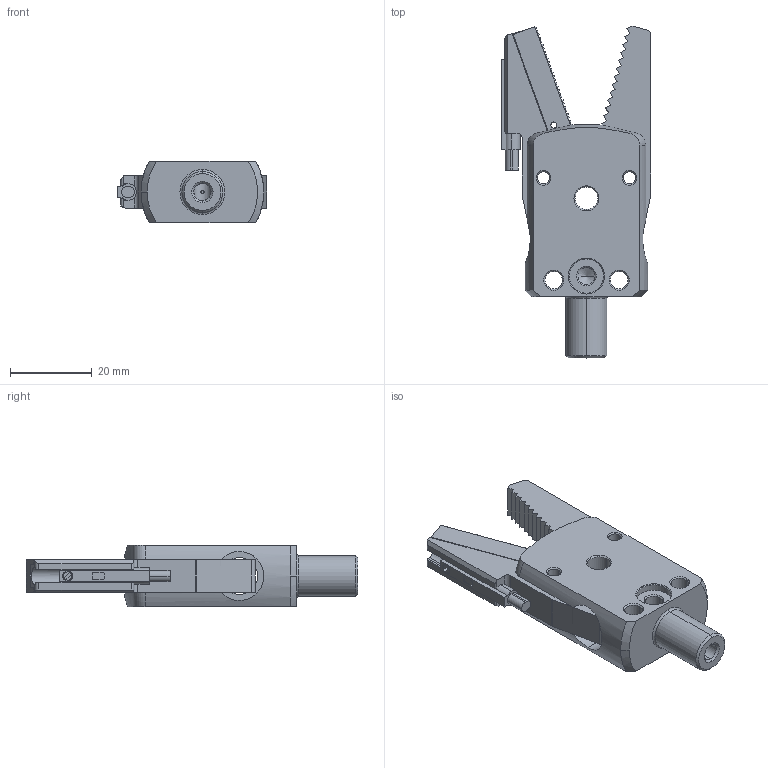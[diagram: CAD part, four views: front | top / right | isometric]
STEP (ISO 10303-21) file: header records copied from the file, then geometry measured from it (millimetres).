
FILE_DESCRIPTION (( 'STEP AP203' ), '1' );
FILE_NAME ('1GRP10B-12-CP.STEP', '2024-06-04T03:23:22', ( '微软用户' ), ( '微软中国' ), 'SwSTEP 2.0', 'SolidWorks 2018', '' );
FILE_SCHEMA (( 'CONFIG_CONTROL_DESIGN' ));
Length unit declared in the file: millimetre
Products named in the file (1): 1GRP10B-12-CP
Bounding box: 36.5 x 81.1 x 15 mm (x, y, z)
Volume: 17088.9 mm3; surface area: 11556.4 mm2
Topology: 1 solids, 5 shells, 1090 faces, 3184 edges, 2091 vertices
Faces by surface type: plane 940, cylinder 90, cone 44, torus 12, bspline 4
Entity records: 37034 total; most frequent: CARTESIAN_POINT 8916, ORIENTED_EDGE 6352, DIRECTION 5086, EDGE_CURVE 3176, VECTOR 2428, LINE 2428, VERTEX_POINT 2083, AXIS2_PLACEMENT_3D 1329
